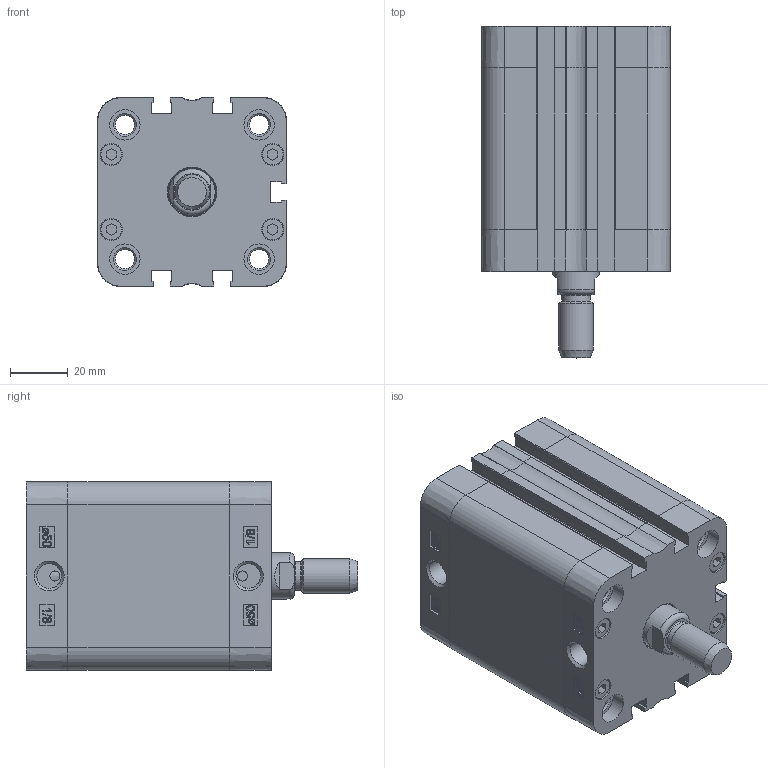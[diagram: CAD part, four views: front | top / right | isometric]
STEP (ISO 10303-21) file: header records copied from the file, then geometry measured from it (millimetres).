
FILE_DESCRIPTION((''),'2;1');
FILE_NAME('T:\Archivio Inventor\- CATALOGHI 2012\SERIE P - NUOVA\PDM\PDM050\PDM050.---.GS.M\PDM050.040.GS.M.stp','2013-02-01T12:19:10',('Administrator'),(''),'Autodesk Inventor 2012','Autodesk Inventor 2012','');
FILE_SCHEMA(('CONFIG_CONTROL_DESIGN'));
Length unit declared in the file: millimetre
Products named in the file (1): PDM050.040.GS.M
Bounding box: 65.5 x 115 x 65.5 mm (x, y, z)
Volume: 191514.3 mm3; surface area: 74492.3 mm2
Topology: 2 solids, 6 shells, 780 faces, 1860 edges, 1167 vertices
Faces by surface type: plane 335, bspline 196, cylinder 131, torus 56, cone 46, sphere 16
Full cylindrical faces by diameter (mm): 3.5 x2, 5.2 x4, 6.647 x8, 7.5 x8, 7.7 x8, 8.047 x4, 8.566 x2, 10 x1, 10.5 x8, 12 x2, 16 x1, 16.5 x1, 50 x1, 52.4 x1, 52.6 x1
Entity records: 25589 total; most frequent: CARTESIAN_POINT 8474, ORIENTED_EDGE 3488, DIRECTION 2866, EDGE_CURVE 1744, VERTEX_POINT 1148, AXIS2_PLACEMENT_3D 978, EDGE_LOOP 962, VECTOR 910
